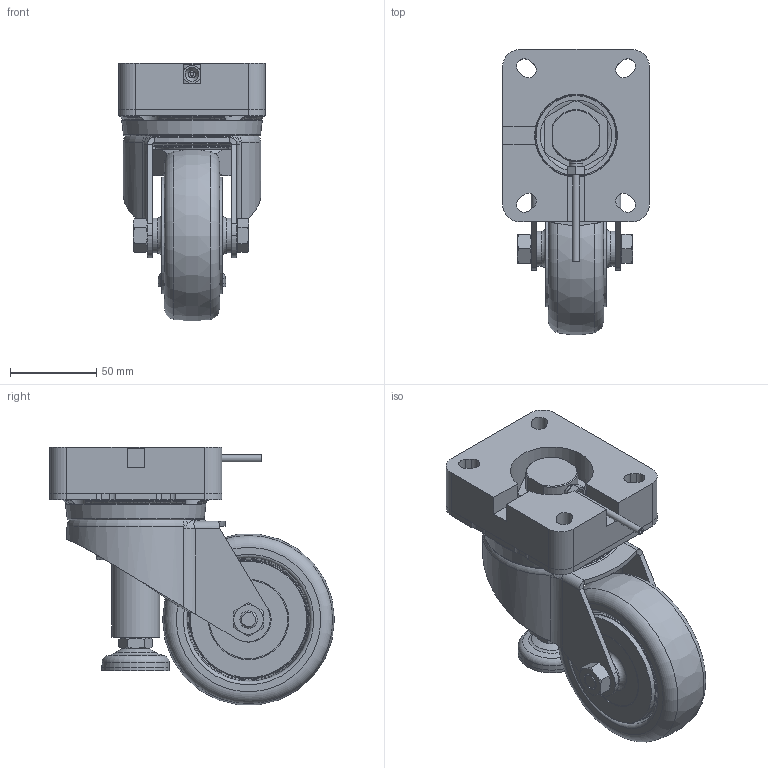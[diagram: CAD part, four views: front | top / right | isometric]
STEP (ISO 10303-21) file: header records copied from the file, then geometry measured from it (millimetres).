
FILE_DESCRIPTION(/* description */ ('Unknown'),/* implementation_level */ '2;1');
FILE_NAME(/* name */ '501.00101_01_eingefahren',/* time_stamp */ '2021-07-13T09:26:13+02:00',/* author */ ('Unknown'),/* organization */ ('Unknown'),/* preprocessor_version */ 'ST-DEVELOPER v16.7',/* originating_system */ 'Solid Edge',/* authorisation */ 'Unknown');
FILE_SCHEMA (('AUTOMOTIVE_DESIGN {1 0 10303 214 3 1 1}'));
Length unit declared in the file: millimetre
Products named in the file (16): 501.00101; 106.00228_oa_0; 125.00307; 125.00022; 115.00009_oa_1; 125.00303; 125.00021; 120.00173; 125.00305; 113.00112; 125.00220; 113.00002_70mm; 113.00056_ohne Mutter; Teller ﾘ40; Gewindestange M10x25; 126.00133
Assembly tree (15 placements, depth 3):
  501.00101
    106.00228_oa_0
      125.00307
      125.00022
      115.00009_oa_1
      125.00303
      125.00021
      120.00173
      125.00305
    113.00112
    125.00220
    113.00002_70mm
    113.00056_ohne Mutter
      Teller ﾘ40
      Gewindestange M10x25
    126.00133
Bounding box: 85 x 165.31 x 149.49 mm (x, y, z)
Volume: 539567.4 mm3; surface area: 197091.9 mm2
Topology: 13 solids, 14 shells, 850 faces, 2257 edges, 1435 vertices
Faces by surface type: cylinder 273, plane 254, cone 134, torus 128, bspline 59, sphere 2
Full cylindrical faces by diameter (mm): 2.2 x1, 3.5 x2, 4 x1, 4.1 x3, 4.2 x1, 4.9 x2, 5 x1, 6.5 x1, 6.917 x2, 7.76 x3, 8 x4, 8.1 x3, 8.376 x2, 8.5 x18, 10 x3, 11.2 x1, 12 x1, 14.4 x1, 15.05 x2, 16.999 x1, 17.9 x2, 19.7 x1, 20.4 x1, 21 x2, 22 x1, 23 x2, 23.5 x1, 24.4 x1, 25 x2, 25.5 x2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
Entity records: 32170 total; most frequent: CARTESIAN_POINT 11195, DIRECTION 3921, ORIENTED_EDGE 3828, EDGE_CURVE 1914, AXIS2_PLACEMENT_3D 1675, VERTEX_POINT 1360, FACE_BOUND 1200, EDGE_LOOP 1198
